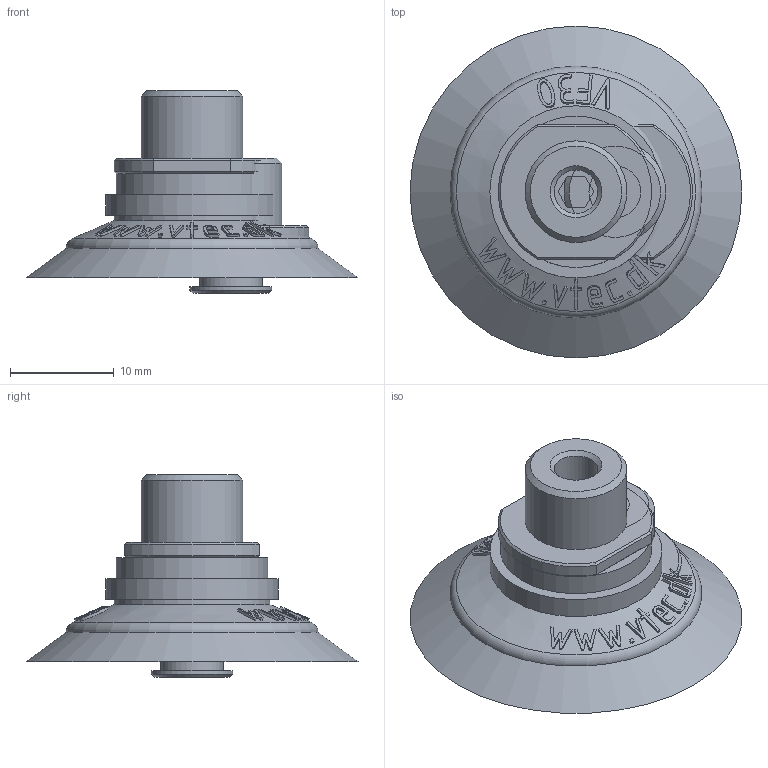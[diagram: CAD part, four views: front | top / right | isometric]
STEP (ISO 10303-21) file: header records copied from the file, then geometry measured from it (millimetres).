
FILE_DESCRIPTION( ( 'STEP AP203' ), '1' );
FILE_NAME( 'C:/Documents and Settings/Owner/官帕 拳搁/3D/Vacuum Pad/VF series/VF30-M518MF.stp', '2006-04-25T04:53:13', ( ' ' ), ( ' ' ), 'XStep 1.0', ' ', ' ' );
FILE_SCHEMA( ( 'CONFIG_CONTROL_DESIGN) ( )' ) );
Length unit declared in the file: metre
Products named in the file (3): Assem1; 1; 2
Bounding box: 32 x 32 x 19.5 mm (x, y, z)
Volume: 5852.9 mm3; surface area: 6585.8 mm2
Topology: 4 solids, 4 shells, 462 faces, 1106 edges, 726 vertices
Faces by surface type: bspline 246, plane 106, cone 62, cylinder 46, torus 2
Full cylindrical faces by diameter (mm): 4.2 x2, 5 x4, 6 x6, 6.4 x2, 7 x2, 7.9 x2, 9.8 x2, 14.6 x2, 15 x2, 16.6 x2
Entity records: 11770 total; most frequent: CARTESIAN_POINT 7341, ORIENTED_EDGE 1050, EDGE_CURVE 525, DIRECTION 472, VERTEX_POINT 361, B_SPLINE_CURVE_WITH_KNOTS 336, EDGE_LOOP 298, FACE_OUTER_BOUND 247
